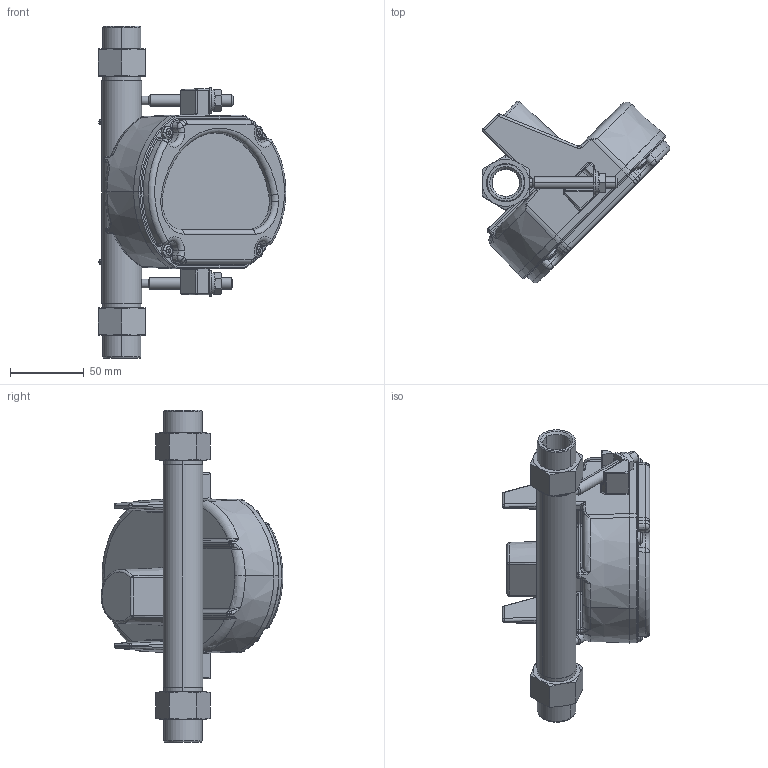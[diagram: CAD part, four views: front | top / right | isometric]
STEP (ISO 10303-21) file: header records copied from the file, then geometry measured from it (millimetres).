
FILE_DESCRIPTION (( 'STEP AP214' ), '1' );
FILE_NAME ('3809G-D-08-B-1-A-0.STEP', '2025-05-09T12:55:08', ( '' ), ( '' ), 'SwSTEP 2.0', 'SolidWorks 2023', '' );
FILE_SCHEMA (( 'AUTOMOTIVE_DESIGN' ));
Length unit declared in the file: millimetre
Products named in the file (1): 3809G-D-08-B-1-A-0
Bounding box: 127.13 x 123.08 x 225 mm (x, y, z)
Volume: 317937.9 mm3; surface area: 153990.7 mm2
Topology: 18 solids, 18 shells, 1385 faces, 3366 edges, 2018 vertices
Faces by surface type: cylinder 476, torus 271, cone 258, plane 219, bspline 119, sphere 42
Entity records: 86116 total; most frequent: CARTESIAN_POINT 54596, ORIENTED_EDGE 6652, DIRECTION 6612, EDGE_CURVE 3326, AXIS2_PLACEMENT_3D 2772, VERTEX_POINT 2016, CIRCLE 1505, EDGE_LOOP 1448
